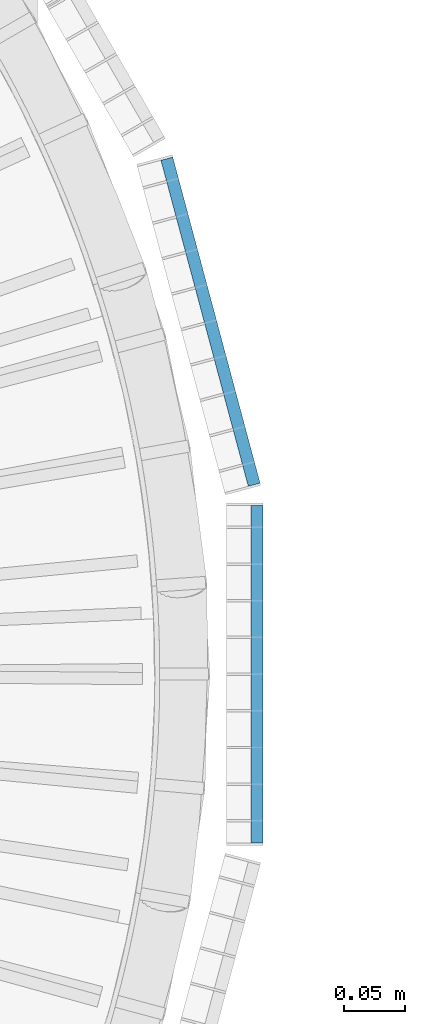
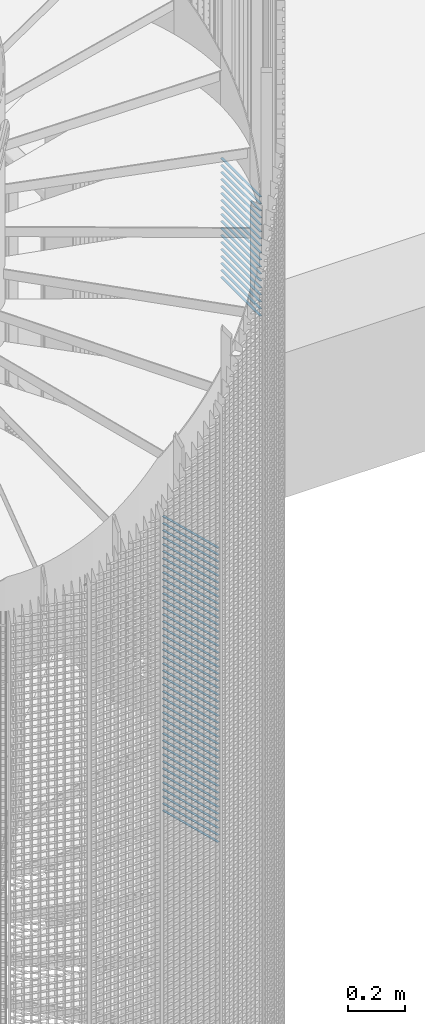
# One storey, part 295 of 1183: 61 beams, 2 elements without a shape of their own.
"""IFC2X3 building model written with IfcOpenShell, lengths in millimetres."""

import ifcopenshell
import ifcopenshell.guid

model = None  # the IFC model being written
_history = None  # IfcOwnerHistory: only IFC2X3 demands one
_inside = {}  # id of a spatial element -> (the spatial element, [elements in it])
_under = {}  # id of a project, library or spatial element -> (it, [spatial elements below it])
_declared = {}  # id of a project -> (the project, [libraries it declares])
_typed = {}  # id of a type object -> (the type object, [elements of that type])
_made_of = {}  # id of a material, layer set ... -> (it, [elements and type objects made of it])


def new_model(schema):
    """Start an empty IFC model of exactly this schema.

    Asked for "IFC4X3", IfcOpenShell would pick the latest addendum, in which some entities
    have other attributes; the version numbers below select the first issue.
    IFC2X3 requires an IfcOwnerHistory on every rooted entity: one is made here for all.
    """
    global model, _history
    if schema == "IFC4X3":
        model = ifcopenshell.file(schema_version=(4, 3, 0, 0))
    else:
        model = ifcopenshell.file(schema=schema)
    _inside.clear()
    _under.clear()
    _declared.clear()
    _typed.clear()
    _made_of.clear()
    _history = None
    if model.schema == "IFC2X3":
        org = make("IfcOrganization", Name="unknown")
        user = make(
            "IfcPersonAndOrganization",
            ThePerson=make("IfcPerson", FamilyName="unknown"),
            TheOrganization=org,
        )
        app = make(
            "IfcApplication",
            ApplicationDeveloper=org,
            Version="unknown",
            ApplicationFullName="unknown",
            ApplicationIdentifier="unknown",
        )
        _history = make(
            "IfcOwnerHistory",
            OwningUser=user,
            OwningApplication=app,
            ChangeAction="ADDED",
            CreationDate=0,
        )
    return model


def make(cls, **values):
    """One entity of the class cls with the attributes given. An attribute that is None is left unset."""
    return model.create_entity(
        cls, **{name: value for name, value in values.items() if value is not None}
    )


def rooted(cls, **values):
    """An entity with a GlobalId (a new one), such as an element, a storey or a relation."""
    return make(cls, GlobalId=ifcopenshell.guid.new(), OwnerHistory=_history, **values)


def si_unit(unit_type, name, prefix=None):
    """IfcSIUnit, for example si_unit("LENGTHUNIT", "METRE", prefix="MILLI")."""
    return make("IfcSIUnit", UnitType=unit_type, Prefix=prefix, Name=name)


def assignment(units):
    """IfcUnitAssignment: the units of a project."""
    return None if units is None else make("IfcUnitAssignment", Units=units)


def point(xyz):
    """IfcCartesianPoint."""
    return None if xyz is None else make("IfcCartesianPoint", Coordinates=xyz)


def direction(xyz):
    """IfcDirection."""
    return None if xyz is None else make("IfcDirection", DirectionRatios=xyz)


def frame(location, z_axis=None, x_axis=None):
    """IfcAxis2Placement3D, a coordinate frame: its origin and axes. An axis left out is left unset."""
    return make(
        "IfcAxis2Placement3D",
        Location=point(location),
        Axis=direction(z_axis),
        RefDirection=direction(x_axis),
    )


def frame_2d(location, x_axis=None):
    """IfcAxis2Placement2D, a coordinate frame in the plane: its origin and x axis."""
    return make(
        "IfcAxis2Placement2D", Location=point(location), RefDirection=direction(x_axis)
    )


def origin_with_axes():
    """The frame at (0, 0, 0) with the z axis (0, 0, 1) and the x axis (1, 0, 0) written out."""
    return frame((0.0, 0.0, 0.0), z_axis=(0.0, 0.0, 1.0), x_axis=(1.0, 0.0, 0.0))


def origin_2d_with_axis():
    """The frame at (0, 0) in the plane with the x axis (1, 0) written out."""
    return frame_2d((0.0, 0.0), x_axis=(1.0, 0.0))


def place(relative_to, where):
    """IfcLocalPlacement: puts the frame where relative to a parent placement (None: the world)."""
    return make(
        "IfcLocalPlacement", PlacementRelTo=relative_to, RelativePlacement=where
    )


def context(
    kind, dimensions, precision=None, world=None, true_north=None, identifier=None
):
    """IfcGeometricRepresentationContext, for example the 3D "Model" context."""
    return make(
        "IfcGeometricRepresentationContext",
        ContextIdentifier=identifier,
        ContextType=kind,
        CoordinateSpaceDimension=dimensions,
        Precision=precision,
        WorldCoordinateSystem=world,
        TrueNorth=true_north,
    )


def subcontext(parent, identifier, kind, view, scale=None):
    """IfcGeometricRepresentationSubContext, for example "Body" below "Model"."""
    return make(
        "IfcGeometricRepresentationSubContext",
        ContextIdentifier=identifier,
        ContextType=kind,
        ParentContext=parent,
        TargetScale=scale,
        TargetView=view,
    )


def project(units=None, contexts=None):
    """IfcProject with its units and contexts."""
    return rooted(
        "IfcProject",
        Name="project",
        RepresentationContexts=contexts,
        UnitsInContext=assignment(units),
    )


def spatial(cls, under=None, at=None, **own):
    """A site, building, storey or space (cls), placed at a placement, below another one or the project."""
    s = rooted(cls, ObjectPlacement=at, **own)
    if under is not None:
        _under.setdefault(under.id(), (under, []))[1].append(s)
    return s


def profile(cls, at=None, kind="AREA", **sizes):
    """A parametric profile (cls). Its sizes go by their IFC names, for example OverallWidth=200.0."""
    return make(cls, ProfileType=kind, Position=at, **sizes)


def rectangle(**sizes):
    """IfcRectangleProfileDef."""
    return profile("IfcRectangleProfileDef", **sizes)


def extrude(swept, where, along, depth):
    """IfcExtrudedAreaSolid: the profile swept, set in the frame where, extruded along a direction by depth."""
    return make(
        "IfcExtrudedAreaSolid",
        SweptArea=swept,
        Position=where,
        ExtrudedDirection=direction(along),
        Depth=depth,
    )


def shape(context_of_items, identifier, shape_type, items):
    """IfcShapeRepresentation: the items that make up one representation, for example the "Body"."""
    return make(
        "IfcShapeRepresentation",
        ContextOfItems=context_of_items,
        RepresentationIdentifier=identifier,
        RepresentationType=shape_type,
        Items=items,
    )


def material(Name=None, Category=None):
    """IfcMaterial."""
    return make("IfcMaterial", Name=Name, Category=Category)


def made_of(thing, what):
    """Note that an element or type object is made of a material, layer set ...; save() writes the relation."""
    if what is not None:
        _made_of.setdefault(what.id(), (what, []))[1].append(thing)
    return thing


def type_object(cls, material=None, **own):
    """A type object (cls), such as IfcWallType, which elements share."""
    return made_of(rooted(cls, **own), material)


def element(
    cls,
    number,
    at=None,
    inside=None,
    cuts=None,
    type_object=None,
    material=None,
    context=None,
    identifier="Body",
    shape_type=None,
    held_by="IfcProductDefinitionShape",
    body=None,
    shapes=None,
    **own,
):
    """One element of the class cls, such as IfcWall. Its Tag is "e" and its number.

    at: its placement. inside: the storey or other place that contains it. cuts: it is an
    opening in that element (IfcRelVoidsElement). A single representation is given by context,
    identifier, shape_type and body (its items); several are given by shapes. held_by: the class
    of the entity that holds the representations. save() writes the other relations.
    """
    e = rooted(cls, Tag="e%d" % number, ObjectPlacement=at, **own)
    if body is not None:
        shapes = [shape(context, identifier, shape_type, body)]
    if shapes is not None:
        e.Representation = make(held_by, Representations=shapes)
    if inside is not None:
        _inside.setdefault(inside.id(), (inside, []))[1].append(e)
    if cuts is not None:
        rooted(
            "IfcRelVoidsElement", RelatingBuildingElement=cuts, RelatedOpeningElement=e
        )
    if type_object is not None:
        _typed.setdefault(type_object.id(), (type_object, []))[1].append(e)
    return made_of(e, material)


def aggregate(whole, parts):
    """IfcRelAggregates: a whole, such as a stair, and the parts it consists of."""
    return rooted("IfcRelAggregates", RelatingObject=whole, RelatedObjects=parts)


def save(model, path):
    """Write the relations noted so far, then the file.

    IfcRelAggregates (storeys below a building ...), IfcRelContainedInSpatialStructure (elements
    in a storey), IfcRelDefinesByType, IfcRelAssociatesMaterial and IfcRelDeclares: one each for
    every whole, place, type object, material and project.
    """
    for whole, parts in _under.values():
        aggregate(whole, parts)
    for where, things in _inside.values():
        rooted(
            "IfcRelContainedInSpatialStructure",
            RelatedElements=things,
            RelatingStructure=where,
        )
    for kind, things in _typed.values():
        rooted("IfcRelDefinesByType", RelatedObjects=things, RelatingType=kind)
    for what, things in _made_of.values():
        rooted("IfcRelAssociatesMaterial", RelatedObjects=things, RelatingMaterial=what)
    for by, libraries in _declared.values():
        rooted("IfcRelDeclares", RelatingContext=by, RelatedDefinitions=libraries)
    model.write(path)


model = new_model("IFC2X3")

# Units and contexts
model_context = context("Model", 3, precision=1e-05, world=origin_with_axes())
body_context = subcontext(model_context, "Body", "Model", "MODEL_VIEW")
ifc_project = project(units=[si_unit("LENGTHUNIT", "METRE", prefix="MILLI"), si_unit("AREAUNIT", "SQUARE_METRE"), si_unit("VOLUMEUNIT", "CUBIC_METRE"), si_unit("MASSUNIT", "GRAM", prefix="KILO"), si_unit("TIMEUNIT", "SECOND"), si_unit("PLANEANGLEUNIT", "RADIAN"), si_unit("SOLIDANGLEUNIT", "STERADIAN"), si_unit("THERMODYNAMICTEMPERATUREUNIT", "DEGREE_CELSIUS"), si_unit("LUMINOUSINTENSITYUNIT", "LUMEN")], contexts=[model_context])

# Site, building, storey
site_placement = place(None, origin_with_axes())
site = spatial("IfcSite", under=ifc_project, at=site_placement, Name="Undefined", CompositionType="ELEMENT")
building_placement = place(site_placement, origin_with_axes())
building = spatial("IfcBuilding", under=site, at=building_placement, Name="Undefined", CompositionType="ELEMENT")
storey_placement = place(building_placement, origin_with_axes())
storey = spatial("IfcBuildingStorey", under=building, at=storey_placement, Name="Undefined", CompositionType="ELEMENT", Elevation=0.0)

# Assembly, beams
assembly_1_placement = place(storey_placement, origin_with_axes())
assembly_1 = element("IfcElementAssembly", 1, at=assembly_1_placement, inside=storey, Name="BORDURE", AssemblyPlace="NOTDEFINED", PredefinedType="NOTDEFINED")
ifc_material = material(Name="STEEL/S235JR")
beam_type = type_object("IfcBeamType", Name="PL2*10", PredefinedType="NOTDEFINED")
beam_1_placement = place(assembly_1_placement, frame((1111.25508286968, 154.895926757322, 7290.0), z_axis=(0.965925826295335, 0.258819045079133, 0.0), x_axis=(-0.258819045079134, 0.965925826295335, 0.0)))
beam_1 = element("IfcBeam", 2, at=beam_1_placement, type_object=beam_type, material=ifc_material, Name="ENTRETOISE", context=body_context, shape_type="SweptSolid", body=[
    extrude(rectangle(XDim=2.0, YDim=10.0, at=origin_2d_with_axis()), frame((275.999999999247, 9.09494701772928e-13, 1.53210777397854e-14), z_axis=(-1.0, 0.0, 0.0), x_axis=(0.0, -1.0, 0.0)), (0.0, 0.0, 1.0), 276.0),
])
beam_2_placement = place(assembly_1_placement, frame((1111.25508286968, 154.895926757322, 7260.0), z_axis=(0.965925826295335, 0.258819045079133, 0.0), x_axis=(-0.258819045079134, 0.965925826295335, 0.0)))
beam_2 = element("IfcBeam", 3, at=beam_2_placement, type_object=beam_type, material=ifc_material, Name="ENTRETOISE", context=body_context, shape_type="SweptSolid", body=[
    extrude(rectangle(XDim=2.0, YDim=10.0, at=origin_2d_with_axis()), frame((275.999999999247, 9.09494701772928e-13, 1.53210777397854e-14), z_axis=(-1.0, 0.0, 0.0), x_axis=(0.0, -1.0, 0.0)), (0.0, 0.0, 1.0), 276.0),
])
beam_3_placement = place(assembly_1_placement, frame((1111.25508286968, 154.895926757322, 7230.0), z_axis=(0.965925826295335, 0.258819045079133, 0.0), x_axis=(-0.258819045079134, 0.965925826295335, 0.0)))
beam_3 = element("IfcBeam", 4, at=beam_3_placement, type_object=beam_type, material=ifc_material, Name="ENTRETOISE", context=body_context, shape_type="SweptSolid", body=[
    extrude(rectangle(XDim=2.0, YDim=10.0, at=origin_2d_with_axis()), frame((275.999999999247, 9.09494701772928e-13, 1.53210777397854e-14), z_axis=(-1.0, 0.0, 0.0), x_axis=(0.0, -1.0, 0.0)), (0.0, 0.0, 1.0), 276.0),
])
beam_4_placement = place(assembly_1_placement, frame((1111.25508286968, 154.895926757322, 7200.0), z_axis=(0.965925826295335, 0.258819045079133, 0.0), x_axis=(-0.258819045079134, 0.965925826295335, 0.0)))
beam_4 = element("IfcBeam", 5, at=beam_4_placement, type_object=beam_type, material=ifc_material, Name="ENTRETOISE", context=body_context, shape_type="SweptSolid", body=[
    extrude(rectangle(XDim=2.0, YDim=10.0, at=origin_2d_with_axis()), frame((275.999999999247, 9.09494701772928e-13, 1.53210777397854e-14), z_axis=(-1.0, 0.0, 0.0), x_axis=(0.0, -1.0, 0.0)), (0.0, 0.0, 1.0), 276.0),
])
beam_5_placement = place(assembly_1_placement, frame((1111.25508286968, 154.895926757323, 7170.0), z_axis=(0.965925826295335, 0.258819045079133, 0.0), x_axis=(-0.258819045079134, 0.965925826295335, 0.0)))
beam_5 = element("IfcBeam", 6, at=beam_5_placement, type_object=beam_type, material=ifc_material, Name="ENTRETOISE", context=body_context, shape_type="SweptSolid", body=[
    extrude(rectangle(XDim=2.0, YDim=10.0, at=origin_2d_with_axis()), frame((275.999999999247, 9.09494701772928e-13, 1.53210777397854e-14), z_axis=(-1.0, 0.0, 0.0), x_axis=(0.0, -1.0, 0.0)), (0.0, 0.0, 1.0), 276.0),
])
beam_6_placement = place(assembly_1_placement, frame((1111.25508286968, 154.895926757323, 7140.0), z_axis=(0.965925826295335, 0.258819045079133, 0.0), x_axis=(-0.258819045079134, 0.965925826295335, 0.0)))
beam_6 = element("IfcBeam", 7, at=beam_6_placement, type_object=beam_type, material=ifc_material, Name="ENTRETOISE", context=body_context, shape_type="SweptSolid", body=[
    extrude(rectangle(XDim=2.0, YDim=10.0, at=origin_2d_with_axis()), frame((275.999999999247, 9.09494701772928e-13, 1.53210777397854e-14), z_axis=(-1.0, 0.0, 0.0), x_axis=(0.0, -1.0, 0.0)), (0.0, 0.0, 1.0), 276.0),
])
beam_7_placement = place(assembly_1_placement, frame((1111.25508286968, 154.895926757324, 6720.0), z_axis=(0.965925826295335, 0.258819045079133, 0.0), x_axis=(-0.258819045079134, 0.965925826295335, 0.0)))
beam_7 = element("IfcBeam", 8, at=beam_7_placement, type_object=beam_type, material=ifc_material, Name="ENTRETOISE", context=body_context, shape_type="SweptSolid", body=[
    extrude(rectangle(XDim=2.0, YDim=10.0, at=origin_2d_with_axis()), frame((275.999999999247, 9.09494701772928e-13, 1.53210777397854e-14), z_axis=(-1.0, 0.0, 0.0), x_axis=(0.0, -1.0, 0.0)), (0.0, 0.0, 1.0), 276.0),
])
beam_8_placement = place(assembly_1_placement, frame((1111.25508286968, 154.895926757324, 6690.0), z_axis=(0.965925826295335, 0.258819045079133, 0.0), x_axis=(-0.258819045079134, 0.965925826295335, 0.0)))
beam_8 = element("IfcBeam", 9, at=beam_8_placement, type_object=beam_type, material=ifc_material, Name="ENTRETOISE", context=body_context, shape_type="SweptSolid", body=[
    extrude(rectangle(XDim=2.0, YDim=10.0, at=origin_2d_with_axis()), frame((275.999999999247, 9.09494701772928e-13, 1.53210777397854e-14), z_axis=(-1.0, 0.0, 0.0), x_axis=(0.0, -1.0, 0.0)), (0.0, 0.0, 1.0), 276.0),
])
beam_9_placement = place(assembly_1_placement, frame((1111.25508286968, 154.895926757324, 6750.0), z_axis=(0.965925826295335, 0.258819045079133, 0.0), x_axis=(-0.258819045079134, 0.965925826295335, 0.0)))
beam_9 = element("IfcBeam", 10, at=beam_9_placement, type_object=beam_type, material=ifc_material, Name="ENTRETOISE", context=body_context, shape_type="SweptSolid", body=[
    extrude(rectangle(XDim=2.0, YDim=10.0, at=origin_2d_with_axis()), frame((275.999999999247, 9.09494701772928e-13, 1.53210777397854e-14), z_axis=(-1.0, 0.0, 0.0), x_axis=(0.0, -1.0, 0.0)), (0.0, 0.0, 1.0), 276.0),
])
beam_10_placement = place(assembly_1_placement, frame((1111.25508286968, 154.895926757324, 6660.0), z_axis=(0.965925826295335, 0.258819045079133, 0.0), x_axis=(-0.258819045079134, 0.965925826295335, 0.0)))
beam_10 = element("IfcBeam", 11, at=beam_10_placement, type_object=beam_type, material=ifc_material, Name="ENTRETOISE", context=body_context, shape_type="SweptSolid", body=[
    extrude(rectangle(XDim=2.0, YDim=10.0, at=origin_2d_with_axis()), frame((275.999999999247, 9.09494701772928e-13, 1.53210777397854e-14), z_axis=(-1.0, 0.0, 0.0), x_axis=(0.0, -1.0, 0.0)), (0.0, 0.0, 1.0), 276.0),
])
beam_11_placement = place(assembly_1_placement, frame((1111.25508286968, 154.895926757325, 6630.0), z_axis=(0.965925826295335, 0.258819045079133, 0.0), x_axis=(-0.258819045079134, 0.965925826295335, 0.0)))
beam_11 = element("IfcBeam", 12, at=beam_11_placement, type_object=beam_type, material=ifc_material, Name="ENTRETOISE", context=body_context, shape_type="SweptSolid", body=[
    extrude(rectangle(XDim=2.0, YDim=10.0, at=origin_2d_with_axis()), frame((275.999999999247, 9.09494701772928e-13, 1.53210777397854e-14), z_axis=(-1.0, 0.0, 0.0), x_axis=(0.0, -1.0, 0.0)), (0.0, 0.0, 1.0), 276.0),
])
beam_12_placement = place(assembly_1_placement, frame((1111.25508286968, 154.895926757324, 6780.0), z_axis=(0.965925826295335, 0.258819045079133, 0.0), x_axis=(-0.258819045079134, 0.965925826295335, 0.0)))
beam_12 = element("IfcBeam", 13, at=beam_12_placement, type_object=beam_type, material=ifc_material, Name="ENTRETOISE", context=body_context, shape_type="SweptSolid", body=[
    extrude(rectangle(XDim=2.0, YDim=10.0, at=origin_2d_with_axis()), frame((275.999999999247, 9.09494701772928e-13, 1.53210777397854e-14), z_axis=(-1.0, 0.0, 0.0), x_axis=(0.0, -1.0, 0.0)), (0.0, 0.0, 1.0), 276.0),
])
beam_13_placement = place(assembly_1_placement, frame((1111.25508286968, 154.895926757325, 6600.0), z_axis=(0.965925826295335, 0.258819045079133, 0.0), x_axis=(-0.258819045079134, 0.965925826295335, 0.0)))
beam_13 = element("IfcBeam", 14, at=beam_13_placement, type_object=beam_type, material=ifc_material, Name="ENTRETOISE", context=body_context, shape_type="SweptSolid", body=[
    extrude(rectangle(XDim=2.0, YDim=10.0, at=origin_2d_with_axis()), frame((275.999999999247, 9.09494701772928e-13, 1.53210777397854e-14), z_axis=(-1.0, 0.0, 0.0), x_axis=(0.0, -1.0, 0.0)), (0.0, 0.0, 1.0), 276.0),
])
beam_14_placement = place(assembly_1_placement, frame((1111.25508286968, 154.895926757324, 6810.0), z_axis=(0.965925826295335, 0.258819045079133, 0.0), x_axis=(-0.258819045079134, 0.965925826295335, 0.0)))
beam_14 = element("IfcBeam", 15, at=beam_14_placement, type_object=beam_type, material=ifc_material, Name="ENTRETOISE", context=body_context, shape_type="SweptSolid", body=[
    extrude(rectangle(XDim=2.0, YDim=10.0, at=origin_2d_with_axis()), frame((275.999999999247, 9.09494701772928e-13, 1.53210777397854e-14), z_axis=(-1.0, 0.0, 0.0), x_axis=(0.0, -1.0, 0.0)), (0.0, 0.0, 1.0), 276.0),
])
beam_15_placement = place(assembly_1_placement, frame((1111.25508286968, 154.895926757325, 6570.0), z_axis=(0.965925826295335, 0.258819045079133, 0.0), x_axis=(-0.258819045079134, 0.965925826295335, 0.0)))
beam_15 = element("IfcBeam", 16, at=beam_15_placement, type_object=beam_type, material=ifc_material, Name="ENTRETOISE", context=body_context, shape_type="SweptSolid", body=[
    extrude(rectangle(XDim=2.0, YDim=10.0, at=origin_2d_with_axis()), frame((275.999999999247, 9.09494701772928e-13, 1.53210777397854e-14), z_axis=(-1.0, 0.0, 0.0), x_axis=(0.0, -1.0, 0.0)), (0.0, 0.0, 1.0), 276.0),
])
beam_16_placement = place(assembly_1_placement, frame((1111.25508286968, 154.895926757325, 6540.0), z_axis=(0.965925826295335, 0.258819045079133, 0.0), x_axis=(-0.258819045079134, 0.965925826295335, 0.0)))
beam_16 = element("IfcBeam", 17, at=beam_16_placement, type_object=beam_type, material=ifc_material, Name="ENTRETOISE", context=body_context, shape_type="SweptSolid", body=[
    extrude(rectangle(XDim=2.0, YDim=10.0, at=origin_2d_with_axis()), frame((275.999999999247, 9.09494701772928e-13, 1.53210777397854e-14), z_axis=(-1.0, 0.0, 0.0), x_axis=(0.0, -1.0, 0.0)), (0.0, 0.0, 1.0), 276.0),
])
beam_17_placement = place(assembly_1_placement, frame((1111.25508286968, 154.895926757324, 6840.0), z_axis=(0.965925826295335, 0.258819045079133, 0.0), x_axis=(-0.258819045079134, 0.965925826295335, 0.0)))
beam_17 = element("IfcBeam", 18, at=beam_17_placement, type_object=beam_type, material=ifc_material, Name="ENTRETOISE", context=body_context, shape_type="SweptSolid", body=[
    extrude(rectangle(XDim=2.0, YDim=10.0, at=origin_2d_with_axis()), frame((275.999999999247, 9.09494701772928e-13, 1.53210777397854e-14), z_axis=(-1.0, 0.0, 0.0), x_axis=(0.0, -1.0, 0.0)), (0.0, 0.0, 1.0), 276.0),
])
beam_18_placement = place(assembly_1_placement, frame((1111.25508286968, 154.895926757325, 6510.0), z_axis=(0.965925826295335, 0.258819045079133, 0.0), x_axis=(-0.258819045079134, 0.965925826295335, 0.0)))
beam_18 = element("IfcBeam", 19, at=beam_18_placement, type_object=beam_type, material=ifc_material, Name="ENTRETOISE", context=body_context, shape_type="SweptSolid", body=[
    extrude(rectangle(XDim=2.0, YDim=10.0, at=origin_2d_with_axis()), frame((275.999999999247, 9.09494701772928e-13, 1.53210777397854e-14), z_axis=(-1.0, 0.0, 0.0), x_axis=(0.0, -1.0, 0.0)), (0.0, 0.0, 1.0), 276.0),
])
beam_19_placement = place(assembly_1_placement, frame((1111.25508286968, 154.895926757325, 6480.0), z_axis=(0.965925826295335, 0.258819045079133, 0.0), x_axis=(-0.258819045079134, 0.965925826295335, 0.0)))
beam_19 = element("IfcBeam", 20, at=beam_19_placement, type_object=beam_type, material=ifc_material, Name="ENTRETOISE", context=body_context, shape_type="SweptSolid", body=[
    extrude(rectangle(XDim=2.0, YDim=10.0, at=origin_2d_with_axis()), frame((275.999999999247, 9.09494701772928e-13, 1.53210777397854e-14), z_axis=(-1.0, 0.0, 0.0), x_axis=(0.0, -1.0, 0.0)), (0.0, 0.0, 1.0), 276.0),
])
beam_20_placement = place(assembly_1_placement, frame((1111.25508286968, 154.895926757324, 6870.0), z_axis=(0.965925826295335, 0.258819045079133, 0.0), x_axis=(-0.258819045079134, 0.965925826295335, 0.0)))
beam_20 = element("IfcBeam", 21, at=beam_20_placement, type_object=beam_type, material=ifc_material, Name="ENTRETOISE", context=body_context, shape_type="SweptSolid", body=[
    extrude(rectangle(XDim=2.0, YDim=10.0, at=origin_2d_with_axis()), frame((275.999999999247, 9.09494701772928e-13, 1.53210777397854e-14), z_axis=(-1.0, 0.0, 0.0), x_axis=(0.0, -1.0, 0.0)), (0.0, 0.0, 1.0), 276.0),
])
beam_21_placement = place(assembly_1_placement, frame((1111.25508286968, 154.895926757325, 6450.0), z_axis=(0.965925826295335, 0.258819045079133, 0.0), x_axis=(-0.258819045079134, 0.965925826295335, 0.0)))
beam_21 = element("IfcBeam", 22, at=beam_21_placement, type_object=beam_type, material=ifc_material, Name="ENTRETOISE", context=body_context, shape_type="SweptSolid", body=[
    extrude(rectangle(XDim=2.0, YDim=10.0, at=origin_2d_with_axis()), frame((275.999999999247, 9.09494701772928e-13, 1.53210777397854e-14), z_axis=(-1.0, 0.0, 0.0), x_axis=(0.0, -1.0, 0.0)), (0.0, 0.0, 1.0), 276.0),
])
beam_22_placement = place(assembly_1_placement, frame((1111.25508286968, 154.895926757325, 6420.0), z_axis=(0.965925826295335, 0.258819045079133, 0.0), x_axis=(-0.258819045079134, 0.965925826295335, 0.0)))
beam_22 = element("IfcBeam", 23, at=beam_22_placement, type_object=beam_type, material=ifc_material, Name="ENTRETOISE", context=body_context, shape_type="SweptSolid", body=[
    extrude(rectangle(XDim=2.0, YDim=10.0, at=origin_2d_with_axis()), frame((275.999999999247, 9.09494701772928e-13, 1.53210777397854e-14), z_axis=(-1.0, 0.0, 0.0), x_axis=(0.0, -1.0, 0.0)), (0.0, 0.0, 1.0), 276.0),
])
beam_23_placement = place(assembly_1_placement, frame((1111.25508286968, 154.895926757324, 6900.0), z_axis=(0.965925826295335, 0.258819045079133, 0.0), x_axis=(-0.258819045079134, 0.965925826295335, 0.0)))
beam_23 = element("IfcBeam", 24, at=beam_23_placement, type_object=beam_type, material=ifc_material, Name="ENTRETOISE", context=body_context, shape_type="SweptSolid", body=[
    extrude(rectangle(XDim=2.0, YDim=10.0, at=origin_2d_with_axis()), frame((275.999999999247, 9.09494701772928e-13, 1.53210777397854e-14), z_axis=(-1.0, 0.0, 0.0), x_axis=(0.0, -1.0, 0.0)), (0.0, 0.0, 1.0), 276.0),
])
beam_24_placement = place(assembly_1_placement, frame((1111.25508286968, 154.895926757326, 6390.0), z_axis=(0.965925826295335, 0.258819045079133, 0.0), x_axis=(-0.258819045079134, 0.965925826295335, 0.0)))
beam_24 = element("IfcBeam", 25, at=beam_24_placement, type_object=beam_type, material=ifc_material, Name="ENTRETOISE", context=body_context, shape_type="SweptSolid", body=[
    extrude(rectangle(XDim=2.0, YDim=10.0, at=origin_2d_with_axis()), frame((275.999999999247, 9.09494701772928e-13, 1.53210777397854e-14), z_axis=(-1.0, 0.0, 0.0), x_axis=(0.0, -1.0, 0.0)), (0.0, 0.0, 1.0), 276.0),
])
beam_25_placement = place(assembly_1_placement, frame((1111.25508286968, 154.895926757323, 6930.0), z_axis=(0.965925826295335, 0.258819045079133, 0.0), x_axis=(-0.258819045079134, 0.965925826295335, 0.0)))
beam_25 = element("IfcBeam", 26, at=beam_25_placement, type_object=beam_type, material=ifc_material, Name="ENTRETOISE", context=body_context, shape_type="SweptSolid", body=[
    extrude(rectangle(XDim=2.0, YDim=10.0, at=origin_2d_with_axis()), frame((275.999999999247, 9.09494701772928e-13, 1.53210777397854e-14), z_axis=(-1.0, 0.0, 0.0), x_axis=(0.0, -1.0, 0.0)), (0.0, 0.0, 1.0), 276.0),
])
beam_26_placement = place(assembly_1_placement, frame((1111.25508286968, 154.895926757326, 6360.0), z_axis=(0.965925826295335, 0.258819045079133, 0.0), x_axis=(-0.258819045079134, 0.965925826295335, 0.0)))
beam_26 = element("IfcBeam", 27, at=beam_26_placement, type_object=beam_type, material=ifc_material, Name="ENTRETOISE", context=body_context, shape_type="SweptSolid", body=[
    extrude(rectangle(XDim=2.0, YDim=10.0, at=origin_2d_with_axis()), frame((275.999999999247, 9.09494701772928e-13, 1.53210777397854e-14), z_axis=(-1.0, 0.0, 0.0), x_axis=(0.0, -1.0, 0.0)), (0.0, 0.0, 1.0), 276.0),
])
beam_27_placement = place(assembly_1_placement, frame((1111.25508286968, 154.895926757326, 6330.0), z_axis=(0.965925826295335, 0.258819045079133, 0.0), x_axis=(-0.258819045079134, 0.965925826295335, 0.0)))
beam_27 = element("IfcBeam", 28, at=beam_27_placement, type_object=beam_type, material=ifc_material, Name="ENTRETOISE", context=body_context, shape_type="SweptSolid", body=[
    extrude(rectangle(XDim=2.0, YDim=10.0, at=origin_2d_with_axis()), frame((275.999999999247, 9.09494701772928e-13, 1.53210777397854e-14), z_axis=(-1.0, 0.0, 0.0), x_axis=(0.0, -1.0, 0.0)), (0.0, 0.0, 1.0), 276.0),
])
beam_28_placement = place(assembly_1_placement, frame((1111.25508286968, 154.895926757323, 6960.0), z_axis=(0.965925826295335, 0.258819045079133, 0.0), x_axis=(-0.258819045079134, 0.965925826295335, 0.0)))
beam_28 = element("IfcBeam", 29, at=beam_28_placement, type_object=beam_type, material=ifc_material, Name="ENTRETOISE", context=body_context, shape_type="SweptSolid", body=[
    extrude(rectangle(XDim=2.0, YDim=10.0, at=origin_2d_with_axis()), frame((275.999999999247, 9.09494701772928e-13, 1.53210777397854e-14), z_axis=(-1.0, 0.0, 0.0), x_axis=(0.0, -1.0, 0.0)), (0.0, 0.0, 1.0), 276.0),
])
beam_29_placement = place(assembly_1_placement, frame((1111.25508286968, 154.895926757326, 6300.0), z_axis=(0.965925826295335, 0.258819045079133, 0.0), x_axis=(-0.258819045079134, 0.965925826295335, 0.0)))
beam_29 = element("IfcBeam", 30, at=beam_29_placement, type_object=beam_type, material=ifc_material, Name="ENTRETOISE", context=body_context, shape_type="SweptSolid", body=[
    extrude(rectangle(XDim=2.0, YDim=10.0, at=origin_2d_with_axis()), frame((275.999999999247, 9.09494701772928e-13, 1.53210777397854e-14), z_axis=(-1.0, 0.0, 0.0), x_axis=(0.0, -1.0, 0.0)), (0.0, 0.0, 1.0), 276.0),
])
beam_30_placement = place(assembly_1_placement, frame((1111.25508286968, 154.895926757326, 6270.0), z_axis=(0.965925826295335, 0.258819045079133, 0.0), x_axis=(-0.258819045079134, 0.965925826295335, 0.0)))
beam_30 = element("IfcBeam", 31, at=beam_30_placement, type_object=beam_type, material=ifc_material, Name="ENTRETOISE", context=body_context, shape_type="SweptSolid", body=[
    extrude(rectangle(XDim=2.0, YDim=10.0, at=origin_2d_with_axis()), frame((275.999999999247, 9.09494701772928e-13, 1.53210777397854e-14), z_axis=(-1.0, 0.0, 0.0), x_axis=(0.0, -1.0, 0.0)), (0.0, 0.0, 1.0), 276.0),
])
beam_31_placement = place(assembly_1_placement, frame((1111.25508286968, 154.895926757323, 6990.0), z_axis=(0.965925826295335, 0.258819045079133, 0.0), x_axis=(-0.258819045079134, 0.965925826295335, 0.0)))
beam_31 = element("IfcBeam", 32, at=beam_31_placement, type_object=beam_type, material=ifc_material, Name="ENTRETOISE", context=body_context, shape_type="SweptSolid", body=[
    extrude(rectangle(XDim=2.0, YDim=10.0, at=origin_2d_with_axis()), frame((275.999999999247, 9.09494701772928e-13, 1.53210777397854e-14), z_axis=(-1.0, 0.0, 0.0), x_axis=(0.0, -1.0, 0.0)), (0.0, 0.0, 1.0), 276.0),
])
beam_32_placement = place(assembly_1_placement, frame((1111.25508286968, 154.895926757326, 6240.0), z_axis=(0.965925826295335, 0.258819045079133, 0.0), x_axis=(-0.258819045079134, 0.965925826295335, 0.0)))
beam_32 = element("IfcBeam", 33, at=beam_32_placement, type_object=beam_type, material=ifc_material, Name="ENTRETOISE", context=body_context, shape_type="SweptSolid", body=[
    extrude(rectangle(XDim=2.0, YDim=10.0, at=origin_2d_with_axis()), frame((275.999999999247, 9.09494701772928e-13, 1.53210777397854e-14), z_axis=(-1.0, 0.0, 0.0), x_axis=(0.0, -1.0, 0.0)), (0.0, 0.0, 1.0), 276.0),
])
beam_33_placement = place(assembly_1_placement, frame((1111.25508286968, 154.895926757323, 7020.0), z_axis=(0.965925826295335, 0.258819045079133, 0.0), x_axis=(-0.258819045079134, 0.965925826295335, 0.0)))
beam_33 = element("IfcBeam", 34, at=beam_33_placement, type_object=beam_type, material=ifc_material, Name="ENTRETOISE", context=body_context, shape_type="SweptSolid", body=[
    extrude(rectangle(XDim=2.0, YDim=10.0, at=origin_2d_with_axis()), frame((275.999999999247, 9.09494701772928e-13, 1.53210777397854e-14), z_axis=(-1.0, 0.0, 0.0), x_axis=(0.0, -1.0, 0.0)), (0.0, 0.0, 1.0), 276.0),
])
beam_34_placement = place(assembly_1_placement, frame((1111.25508286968, 154.895926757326, 6210.0), z_axis=(0.965925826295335, 0.258819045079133, 0.0), x_axis=(-0.258819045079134, 0.965925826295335, 0.0)))
beam_34 = element("IfcBeam", 35, at=beam_34_placement, type_object=beam_type, material=ifc_material, Name="ENTRETOISE", context=body_context, shape_type="SweptSolid", body=[
    extrude(rectangle(XDim=2.0, YDim=10.0, at=origin_2d_with_axis()), frame((275.999999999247, 9.09494701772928e-13, 1.53210777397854e-14), z_axis=(-1.0, 0.0, 0.0), x_axis=(0.0, -1.0, 0.0)), (0.0, 0.0, 1.0), 276.0),
])
beam_35_placement = place(assembly_1_placement, frame((1111.25508286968, 154.895926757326, 6180.0), z_axis=(0.965925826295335, 0.258819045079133, 0.0), x_axis=(-0.258819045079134, 0.965925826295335, 0.0)))
beam_35 = element("IfcBeam", 36, at=beam_35_placement, type_object=beam_type, material=ifc_material, Name="ENTRETOISE", context=body_context, shape_type="SweptSolid", body=[
    extrude(rectangle(XDim=2.0, YDim=10.0, at=origin_2d_with_axis()), frame((275.999999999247, 9.09494701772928e-13, 1.53210777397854e-14), z_axis=(-1.0, 0.0, 0.0), x_axis=(0.0, -1.0, 0.0)), (0.0, 0.0, 1.0), 276.0),
])
beam_36_placement = place(assembly_1_placement, frame((1111.25508286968, 154.895926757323, 7050.0), z_axis=(0.965925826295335, 0.258819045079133, 0.0), x_axis=(-0.258819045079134, 0.965925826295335, 0.0)))
beam_36 = element("IfcBeam", 37, at=beam_36_placement, type_object=beam_type, material=ifc_material, Name="ENTRETOISE", context=body_context, shape_type="SweptSolid", body=[
    extrude(rectangle(XDim=2.0, YDim=10.0, at=origin_2d_with_axis()), frame((275.999999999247, 9.09494701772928e-13, 1.53210777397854e-14), z_axis=(-1.0, 0.0, 0.0), x_axis=(0.0, -1.0, 0.0)), (0.0, 0.0, 1.0), 276.0),
])
beam_37_placement = place(assembly_1_placement, frame((1111.25508286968, 154.895926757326, 6150.0), z_axis=(0.965925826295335, 0.258819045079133, 0.0), x_axis=(-0.258819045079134, 0.965925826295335, 0.0)))
beam_37 = element("IfcBeam", 38, at=beam_37_placement, type_object=beam_type, material=ifc_material, Name="ENTRETOISE", context=body_context, shape_type="SweptSolid", body=[
    extrude(rectangle(XDim=2.0, YDim=10.0, at=origin_2d_with_axis()), frame((275.999999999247, 9.09494701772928e-13, 1.53210777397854e-14), z_axis=(-1.0, 0.0, 0.0), x_axis=(0.0, -1.0, 0.0)), (0.0, 0.0, 1.0), 276.0),
])
beam_38_placement = place(assembly_1_placement, frame((1111.25508286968, 154.895926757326, 6120.0), z_axis=(0.965925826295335, 0.258819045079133, 0.0), x_axis=(-0.258819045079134, 0.965925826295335, 0.0)))
beam_38 = element("IfcBeam", 39, at=beam_38_placement, type_object=beam_type, material=ifc_material, Name="ENTRETOISE", context=body_context, shape_type="SweptSolid", body=[
    extrude(rectangle(XDim=2.0, YDim=10.0, at=origin_2d_with_axis()), frame((275.999999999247, 9.09494701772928e-13, 1.53210777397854e-14), z_axis=(-1.0, 0.0, 0.0), x_axis=(0.0, -1.0, 0.0)), (0.0, 0.0, 1.0), 276.0),
])
beam_39_placement = place(assembly_1_placement, frame((1111.25508286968, 154.895926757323, 7080.0), z_axis=(0.965925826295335, 0.258819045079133, 0.0), x_axis=(-0.258819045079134, 0.965925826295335, 0.0)))
beam_39 = element("IfcBeam", 40, at=beam_39_placement, type_object=beam_type, material=ifc_material, Name="ENTRETOISE", context=body_context, shape_type="SweptSolid", body=[
    extrude(rectangle(XDim=2.0, YDim=10.0, at=origin_2d_with_axis()), frame((275.999999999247, 9.09494701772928e-13, 1.53210777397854e-14), z_axis=(-1.0, 0.0, 0.0), x_axis=(0.0, -1.0, 0.0)), (0.0, 0.0, 1.0), 276.0),
])
beam_40_placement = place(assembly_1_placement, frame((1111.25508286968, 154.895926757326, 6090.0), z_axis=(0.965925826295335, 0.258819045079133, 0.0), x_axis=(-0.258819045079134, 0.965925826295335, 0.0)))
beam_40 = element("IfcBeam", 41, at=beam_40_placement, type_object=beam_type, material=ifc_material, Name="ENTRETOISE", context=body_context, shape_type="SweptSolid", body=[
    extrude(rectangle(XDim=2.0, YDim=10.0, at=origin_2d_with_axis()), frame((275.999999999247, 9.09494701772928e-13, 1.53210777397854e-14), z_axis=(-1.0, 0.0, 0.0), x_axis=(0.0, -1.0, 0.0)), (0.0, 0.0, 1.0), 276.0),
])
beam_41_placement = place(assembly_1_placement, frame((1111.25508286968, 154.895926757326, 6060.0), z_axis=(0.965925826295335, 0.258819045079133, 0.0), x_axis=(-0.258819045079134, 0.965925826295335, 0.0)))
beam_41 = element("IfcBeam", 42, at=beam_41_placement, type_object=beam_type, material=ifc_material, Name="ENTRETOISE", context=body_context, shape_type="SweptSolid", body=[
    extrude(rectangle(XDim=2.0, YDim=10.0, at=origin_2d_with_axis()), frame((275.999999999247, 9.09494701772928e-13, 1.53210777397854e-14), z_axis=(-1.0, 0.0, 0.0), x_axis=(0.0, -1.0, 0.0)), (0.0, 0.0, 1.0), 276.0),
])
beam_42_placement = place(assembly_1_placement, frame((1111.25508286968, 154.895926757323, 7110.0), z_axis=(0.965925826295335, 0.258819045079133, 0.0), x_axis=(-0.258819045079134, 0.965925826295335, 0.0)))
beam_42 = element("IfcBeam", 43, at=beam_42_placement, type_object=beam_type, material=ifc_material, Name="ENTRETOISE", context=body_context, shape_type="SweptSolid", body=[
    extrude(rectangle(XDim=2.0, YDim=10.0, at=origin_2d_with_axis()), frame((275.999999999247, 9.09494701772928e-13, 1.53210777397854e-14), z_axis=(-1.0, 0.0, 0.0), x_axis=(0.0, -1.0, 0.0)), (0.0, 0.0, 1.0), 276.0),
])
beam_43_placement = place(assembly_1_placement, frame((1111.25508286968, 154.895926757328, 6030.0), z_axis=(0.965925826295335, 0.258819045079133, 0.0), x_axis=(-0.258819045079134, 0.965925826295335, 0.0)))
beam_43 = element("IfcBeam", 44, at=beam_43_placement, type_object=beam_type, material=ifc_material, Name="ENTRETOISE", context=body_context, shape_type="SweptSolid", body=[
    extrude(rectangle(XDim=2.0, YDim=10.0, at=origin_2d_with_axis()), frame((275.999999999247, 9.09494701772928e-13, 1.53210777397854e-14), z_axis=(-1.0, 0.0, 0.0), x_axis=(0.0, -1.0, 0.0)), (0.0, 0.0, 1.0), 276.0),
])
aggregate(assembly_1, [beam_1, beam_2, beam_3, beam_4, beam_5, beam_6, beam_7, beam_8, beam_9, beam_10, beam_11, beam_12, beam_13, beam_14, beam_15, beam_16, beam_17, beam_18, beam_19, beam_20, beam_21, beam_22, beam_23, beam_24, beam_25, beam_26, beam_27, beam_28, beam_29, beam_30, beam_31, beam_32, beam_33, beam_34, beam_35, beam_36, beam_37, beam_38, beam_39, beam_40, beam_41, beam_42, beam_43])

assembly_2_placement = place(storey_placement, origin_with_axes())
assembly_2 = element("IfcElementAssembly", 45, at=assembly_2_placement, inside=storey, Name="BORDURE", AssemblyPlace="NOTDEFINED", PredefinedType="NOTDEFINED")
beam_44_placement = place(assembly_2_placement, frame((1113.47999999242, -137.996003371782, 8970.0), z_axis=(1.0, 0.0, 0.0), x_axis=(0.0, 1.0, 0.0)))
beam_44 = element("IfcBeam", 46, at=beam_44_placement, type_object=beam_type, material=ifc_material, Name="ENTRETOISE", context=body_context, shape_type="SweptSolid", body=[
    extrude(rectangle(XDim=2.0, YDim=10.0, at=origin_2d_with_axis()), frame((275.999999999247, 9.09494701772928e-13, 1.53210777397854e-14), z_axis=(-1.0, 0.0, 0.0), x_axis=(0.0, -1.0, 0.0)), (0.0, 0.0, 1.0), 276.0),
])
beam_45_placement = place(assembly_2_placement, frame((1113.47999999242, -137.996003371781, 8940.0), z_axis=(1.0, 0.0, 0.0), x_axis=(0.0, 1.0, 0.0)))
beam_45 = element("IfcBeam", 47, at=beam_45_placement, type_object=beam_type, material=ifc_material, Name="ENTRETOISE", context=body_context, shape_type="SweptSolid", body=[
    extrude(rectangle(XDim=2.0, YDim=10.0, at=origin_2d_with_axis()), frame((275.999999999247, 9.09494701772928e-13, 1.53210777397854e-14), z_axis=(-1.0, 0.0, 0.0), x_axis=(0.0, -1.0, 0.0)), (0.0, 0.0, 1.0), 276.0),
])
beam_46_placement = place(assembly_2_placement, frame((1113.47999999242, -137.996003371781, 8910.0), z_axis=(1.0, 0.0, 0.0), x_axis=(0.0, 1.0, 0.0)))
beam_46 = element("IfcBeam", 48, at=beam_46_placement, type_object=beam_type, material=ifc_material, Name="ENTRETOISE", context=body_context, shape_type="SweptSolid", body=[
    extrude(rectangle(XDim=2.0, YDim=10.0, at=origin_2d_with_axis()), frame((275.999999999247, 9.09494701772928e-13, 1.53210777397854e-14), z_axis=(-1.0, 0.0, 0.0), x_axis=(0.0, -1.0, 0.0)), (0.0, 0.0, 1.0), 276.0),
])
beam_47_placement = place(assembly_2_placement, frame((1113.47999999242, -137.996003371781, 8880.0), z_axis=(1.0, 0.0, 0.0), x_axis=(0.0, 1.0, 0.0)))
beam_47 = element("IfcBeam", 49, at=beam_47_placement, type_object=beam_type, material=ifc_material, Name="ENTRETOISE", context=body_context, shape_type="SweptSolid", body=[
    extrude(rectangle(XDim=2.0, YDim=10.0, at=origin_2d_with_axis()), frame((275.999999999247, 9.09494701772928e-13, 1.53210777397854e-14), z_axis=(-1.0, 0.0, 0.0), x_axis=(0.0, -1.0, 0.0)), (0.0, 0.0, 1.0), 276.0),
])
beam_48_placement = place(assembly_2_placement, frame((1113.47999999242, -137.996003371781, 8850.0), z_axis=(1.0, 0.0, 0.0), x_axis=(0.0, 1.0, 0.0)))
beam_48 = element("IfcBeam", 50, at=beam_48_placement, type_object=beam_type, material=ifc_material, Name="ENTRETOISE", context=body_context, shape_type="SweptSolid", body=[
    extrude(rectangle(XDim=2.0, YDim=10.0, at=origin_2d_with_axis()), frame((275.999999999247, 9.09494701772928e-13, 1.53210777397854e-14), z_axis=(-1.0, 0.0, 0.0), x_axis=(0.0, -1.0, 0.0)), (0.0, 0.0, 1.0), 276.0),
])
beam_49_placement = place(assembly_2_placement, frame((1113.47999999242, -137.996003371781, 8820.0), z_axis=(1.0, 0.0, 0.0), x_axis=(0.0, 1.0, 0.0)))
beam_49 = element("IfcBeam", 51, at=beam_49_placement, type_object=beam_type, material=ifc_material, Name="ENTRETOISE", context=body_context, shape_type="SweptSolid", body=[
    extrude(rectangle(XDim=2.0, YDim=10.0, at=origin_2d_with_axis()), frame((275.999999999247, 9.09494701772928e-13, 1.53210777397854e-14), z_axis=(-1.0, 0.0, 0.0), x_axis=(0.0, -1.0, 0.0)), (0.0, 0.0, 1.0), 276.0),
])
beam_50_placement = place(assembly_2_placement, frame((1113.47999999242, -137.996003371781, 8790.0), z_axis=(1.0, 0.0, 0.0), x_axis=(0.0, 1.0, 0.0)))
beam_50 = element("IfcBeam", 52, at=beam_50_placement, type_object=beam_type, material=ifc_material, Name="ENTRETOISE", context=body_context, shape_type="SweptSolid", body=[
    extrude(rectangle(XDim=2.0, YDim=10.0, at=origin_2d_with_axis()), frame((275.999999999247, 9.09494701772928e-13, 1.53210777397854e-14), z_axis=(-1.0, 0.0, 0.0), x_axis=(0.0, -1.0, 0.0)), (0.0, 0.0, 1.0), 276.0),
])
beam_51_placement = place(assembly_2_placement, frame((1113.47999999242, -137.996003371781, 8760.0), z_axis=(1.0, 0.0, 0.0), x_axis=(0.0, 1.0, 0.0)))
beam_51 = element("IfcBeam", 53, at=beam_51_placement, type_object=beam_type, material=ifc_material, Name="ENTRETOISE", context=body_context, shape_type="SweptSolid", body=[
    extrude(rectangle(XDim=2.0, YDim=10.0, at=origin_2d_with_axis()), frame((275.999999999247, 9.09494701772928e-13, 1.53210777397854e-14), z_axis=(-1.0, 0.0, 0.0), x_axis=(0.0, -1.0, 0.0)), (0.0, 0.0, 1.0), 276.0),
])
beam_52_placement = place(assembly_2_placement, frame((1113.47999999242, -137.996003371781, 8730.0), z_axis=(1.0, 0.0, 0.0), x_axis=(0.0, 1.0, 0.0)))
beam_52 = element("IfcBeam", 54, at=beam_52_placement, type_object=beam_type, material=ifc_material, Name="ENTRETOISE", context=body_context, shape_type="SweptSolid", body=[
    extrude(rectangle(XDim=2.0, YDim=10.0, at=origin_2d_with_axis()), frame((275.999999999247, 9.09494701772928e-13, 1.53210777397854e-14), z_axis=(-1.0, 0.0, 0.0), x_axis=(0.0, -1.0, 0.0)), (0.0, 0.0, 1.0), 276.0),
])
beam_53_placement = place(assembly_2_placement, frame((1113.47999999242, -137.996003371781, 8700.0), z_axis=(1.0, 0.0, 0.0), x_axis=(0.0, 1.0, 0.0)))
beam_53 = element("IfcBeam", 55, at=beam_53_placement, type_object=beam_type, material=ifc_material, Name="ENTRETOISE", context=body_context, shape_type="SweptSolid", body=[
    extrude(rectangle(XDim=2.0, YDim=10.0, at=origin_2d_with_axis()), frame((275.999999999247, 9.09494701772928e-13, 1.53210777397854e-14), z_axis=(-1.0, 0.0, 0.0), x_axis=(0.0, -1.0, 0.0)), (0.0, 0.0, 1.0), 276.0),
])
beam_54_placement = place(assembly_2_placement, frame((1113.47999999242, -137.996003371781, 8670.0), z_axis=(1.0, 0.0, 0.0), x_axis=(0.0, 1.0, 0.0)))
beam_54 = element("IfcBeam", 56, at=beam_54_placement, type_object=beam_type, material=ifc_material, Name="ENTRETOISE", context=body_context, shape_type="SweptSolid", body=[
    extrude(rectangle(XDim=2.0, YDim=10.0, at=origin_2d_with_axis()), frame((275.999999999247, 9.09494701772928e-13, 1.53210777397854e-14), z_axis=(-1.0, 0.0, 0.0), x_axis=(0.0, -1.0, 0.0)), (0.0, 0.0, 1.0), 276.0),
])
beam_55_placement = place(assembly_2_placement, frame((1113.47999999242, -137.99600337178, 8640.0), z_axis=(1.0, 0.0, 0.0), x_axis=(0.0, 1.0, 0.0)))
beam_55 = element("IfcBeam", 57, at=beam_55_placement, type_object=beam_type, material=ifc_material, Name="ENTRETOISE", context=body_context, shape_type="SweptSolid", body=[
    extrude(rectangle(XDim=2.0, YDim=10.0, at=origin_2d_with_axis()), frame((275.999999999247, 9.09494701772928e-13, 1.53210777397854e-14), z_axis=(-1.0, 0.0, 0.0), x_axis=(0.0, -1.0, 0.0)), (0.0, 0.0, 1.0), 276.0),
])
beam_56_placement = place(assembly_2_placement, frame((1113.47999999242, -137.99600337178, 8610.0), z_axis=(1.0, 0.0, 0.0), x_axis=(0.0, 1.0, 0.0)))
beam_56 = element("IfcBeam", 58, at=beam_56_placement, type_object=beam_type, material=ifc_material, Name="ENTRETOISE", context=body_context, shape_type="SweptSolid", body=[
    extrude(rectangle(XDim=2.0, YDim=10.0, at=origin_2d_with_axis()), frame((275.999999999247, 9.09494701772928e-13, 1.53210777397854e-14), z_axis=(-1.0, 0.0, 0.0), x_axis=(0.0, -1.0, 0.0)), (0.0, 0.0, 1.0), 276.0),
])
beam_57_placement = place(assembly_2_placement, frame((1113.47999999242, -137.99600337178, 8580.0), z_axis=(1.0, 0.0, 0.0), x_axis=(0.0, 1.0, 0.0)))
beam_57 = element("IfcBeam", 59, at=beam_57_placement, type_object=beam_type, material=ifc_material, Name="ENTRETOISE", context=body_context, shape_type="SweptSolid", body=[
    extrude(rectangle(XDim=2.0, YDim=10.0, at=origin_2d_with_axis()), frame((275.999999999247, 9.09494701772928e-13, 1.53210777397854e-14), z_axis=(-1.0, 0.0, 0.0), x_axis=(0.0, -1.0, 0.0)), (0.0, 0.0, 1.0), 276.0),
])
beam_58_placement = place(assembly_2_placement, frame((1113.47999999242, -137.99600337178, 8550.0), z_axis=(1.0, 0.0, 0.0), x_axis=(0.0, 1.0, 0.0)))
beam_58 = element("IfcBeam", 60, at=beam_58_placement, type_object=beam_type, material=ifc_material, Name="ENTRETOISE", context=body_context, shape_type="SweptSolid", body=[
    extrude(rectangle(XDim=2.0, YDim=10.0, at=origin_2d_with_axis()), frame((275.999999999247, 9.09494701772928e-13, 1.53210777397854e-14), z_axis=(-1.0, 0.0, 0.0), x_axis=(0.0, -1.0, 0.0)), (0.0, 0.0, 1.0), 276.0),
])
beam_59_placement = place(assembly_2_placement, frame((1113.47999999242, -137.99600337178, 8520.0), z_axis=(1.0, 0.0, 0.0), x_axis=(0.0, 1.0, 0.0)))
beam_59 = element("IfcBeam", 61, at=beam_59_placement, type_object=beam_type, material=ifc_material, Name="ENTRETOISE", context=body_context, shape_type="SweptSolid", body=[
    extrude(rectangle(XDim=2.0, YDim=10.0, at=origin_2d_with_axis()), frame((275.999999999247, 9.09494701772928e-13, 1.53210777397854e-14), z_axis=(-1.0, 0.0, 0.0), x_axis=(0.0, -1.0, 0.0)), (0.0, 0.0, 1.0), 276.0),
])
beam_60_placement = place(assembly_2_placement, frame((1113.47999999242, -137.99600337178, 8490.0), z_axis=(1.0, 0.0, 0.0), x_axis=(0.0, 1.0, 0.0)))
beam_60 = element("IfcBeam", 62, at=beam_60_placement, type_object=beam_type, material=ifc_material, Name="ENTRETOISE", context=body_context, shape_type="SweptSolid", body=[
    extrude(rectangle(XDim=2.0, YDim=10.0, at=origin_2d_with_axis()), frame((275.999999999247, 9.09494701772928e-13, 1.53210777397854e-14), z_axis=(-1.0, 0.0, 0.0), x_axis=(0.0, -1.0, 0.0)), (0.0, 0.0, 1.0), 276.0),
])
beam_61_placement = place(assembly_2_placement, frame((1113.47999999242, -137.99600337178, 8460.0), z_axis=(1.0, 0.0, 0.0), x_axis=(0.0, 1.0, 0.0)))
beam_61 = element("IfcBeam", 63, at=beam_61_placement, type_object=beam_type, material=ifc_material, Name="ENTRETOISE", context=body_context, shape_type="SweptSolid", body=[
    extrude(rectangle(XDim=2.0, YDim=10.0, at=origin_2d_with_axis()), frame((275.999999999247, 9.09494701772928e-13, 1.53210777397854e-14), z_axis=(-1.0, 0.0, 0.0), x_axis=(0.0, -1.0, 0.0)), (0.0, 0.0, 1.0), 276.0),
])
aggregate(assembly_2, [beam_44, beam_45, beam_46, beam_47, beam_48, beam_49, beam_50, beam_51, beam_52, beam_53, beam_54, beam_55, beam_56, beam_57, beam_58, beam_59, beam_60, beam_61])

save(model, "model.ifc")
